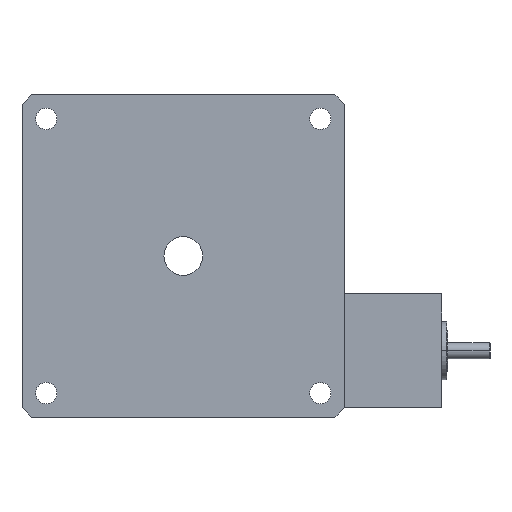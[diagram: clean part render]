
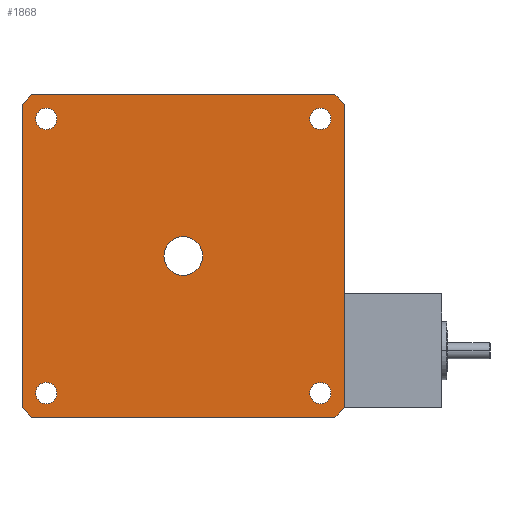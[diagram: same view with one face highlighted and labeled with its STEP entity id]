
A CAD part, front view. The second image highlights one B-rep face of the part: STEP entity #1868.
In plain terms, the highlighted planar face has unit normal (0, -1, 0).
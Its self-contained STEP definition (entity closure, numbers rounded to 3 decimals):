
#1=DIRECTION('',(0.707,0.,-0.707));
#2=VECTOR('',#1,4.243);
#3=CARTESIAN_POINT('',(-50.,-22.733,-47.));
#4=LINE('',#3,#2);
#5=DIRECTION('',(0.,0.,1.));
#6=VECTOR('',#5,94.);
#7=CARTESIAN_POINT('',(-50.,-22.733,-47.));
#8=LINE('',#7,#6);
#9=DIRECTION('',(-0.707,0.,-0.707));
#10=VECTOR('',#9,4.243);
#11=CARTESIAN_POINT('',(-47.,-22.733,50.));
#12=LINE('',#11,#10);
#13=DIRECTION('',(1.,0.,0.));
#14=VECTOR('',#13,94.);
#15=CARTESIAN_POINT('',(-47.,-22.733,50.));
#16=LINE('',#15,#14);
#17=DIRECTION('',(-0.707,0.,0.707));
#18=VECTOR('',#17,4.243);
#19=CARTESIAN_POINT('',(50.,-22.733,47.));
#20=LINE('',#19,#18);
#21=DIRECTION('',(0.,0.,-1.));
#22=VECTOR('',#21,94.);
#23=CARTESIAN_POINT('',(50.,-22.733,47.));
#24=LINE('',#23,#22);
#25=DIRECTION('',(0.707,0.,0.707));
#26=VECTOR('',#25,4.243);
#27=CARTESIAN_POINT('',(47.,-22.733,-50.));
#28=LINE('',#27,#26);
#29=DIRECTION('',(-1.,0.,0.));
#30=VECTOR('',#29,94.);
#31=CARTESIAN_POINT('',(47.,-22.733,-50.));
#32=LINE('',#31,#30);
#33=CARTESIAN_POINT('',(42.5,-22.733,42.5));
#34=DIRECTION('',(0.,1.,0.));
#35=DIRECTION('',(1.,0.,0.));
#36=AXIS2_PLACEMENT_3D('',#33,#34,#35);
#38=CARTESIAN_POINT('',(42.5,-22.733,42.5));
#39=DIRECTION('',(0.,1.,0.));
#40=DIRECTION('',(-1.,0.,0.));
#41=AXIS2_PLACEMENT_3D('',#38,#39,#40);
#43=CARTESIAN_POINT('',(-42.5,-22.733,42.5));
#44=DIRECTION('',(0.,-1.,0.));
#45=DIRECTION('',(-1.,0.,0.));
#46=AXIS2_PLACEMENT_3D('',#43,#44,#45);
#48=CARTESIAN_POINT('',(-42.5,-22.733,42.5));
#49=DIRECTION('',(0.,-1.,0.));
#50=DIRECTION('',(1.,0.,0.));
#51=AXIS2_PLACEMENT_3D('',#48,#49,#50);
#53=CARTESIAN_POINT('',(42.5,-22.733,-42.5));
#54=DIRECTION('',(0.,-1.,0.));
#55=DIRECTION('',(1.,0.,0.));
#56=AXIS2_PLACEMENT_3D('',#53,#54,#55);
#58=CARTESIAN_POINT('',(42.5,-22.733,-42.5));
#59=DIRECTION('',(0.,-1.,0.));
#60=DIRECTION('',(-1.,0.,0.));
#61=AXIS2_PLACEMENT_3D('',#58,#59,#60);
#63=CARTESIAN_POINT('',(-42.5,-22.733,-42.5));
#64=DIRECTION('',(0.,1.,0.));
#65=DIRECTION('',(-1.,0.,0.));
#66=AXIS2_PLACEMENT_3D('',#63,#64,#65);
#68=CARTESIAN_POINT('',(-42.5,-22.733,-42.5));
#69=DIRECTION('',(0.,1.,0.));
#70=DIRECTION('',(1.,0.,0.));
#71=AXIS2_PLACEMENT_3D('',#68,#69,#70);
#73=CARTESIAN_POINT('',(0.,-22.733,0.));
#74=DIRECTION('',(0.,-1.,0.));
#75=DIRECTION('',(1.,0.,0.));
#76=AXIS2_PLACEMENT_3D('',#73,#74,#75);
#78=CARTESIAN_POINT('',(0.,-22.733,0.));
#79=DIRECTION('',(0.,-1.,0.));
#80=DIRECTION('',(-1.,0.,0.));
#81=AXIS2_PLACEMENT_3D('',#78,#79,#80);
#1411=CARTESIAN_POINT('',(-50.,-22.733,-47.));
#1412=CARTESIAN_POINT('',(-47.,-22.733,-50.));
#1413=VERTEX_POINT('',#1411);
#1414=VERTEX_POINT('',#1412);
#1419=CARTESIAN_POINT('',(-47.,-22.733,50.));
#1420=CARTESIAN_POINT('',(-50.,-22.733,47.));
#1421=VERTEX_POINT('',#1419);
#1422=VERTEX_POINT('',#1420);
#1423=CARTESIAN_POINT('',(50.,-22.733,47.));
#1424=CARTESIAN_POINT('',(47.,-22.733,50.));
#1425=VERTEX_POINT('',#1423);
#1426=VERTEX_POINT('',#1424);
#1427=CARTESIAN_POINT('',(47.,-22.733,-50.));
#1428=VERTEX_POINT('',#1427);
#1429=CARTESIAN_POINT('',(50.,-22.733,-47.));
#1430=VERTEX_POINT('',#1429);
#1433=CARTESIAN_POINT('',(45.8,-22.733,42.5));
#1434=CARTESIAN_POINT('',(39.2,-22.733,42.5));
#1435=VERTEX_POINT('',#1433);
#1436=VERTEX_POINT('',#1434);
#1437=CARTESIAN_POINT('',(-45.8,-22.733,42.5));
#1438=CARTESIAN_POINT('',(-39.2,-22.733,42.5));
#1439=VERTEX_POINT('',#1437);
#1440=VERTEX_POINT('',#1438);
#1449=CARTESIAN_POINT('',(45.8,-22.733,-42.5));
#1450=CARTESIAN_POINT('',(39.2,-22.733,-42.5));
#1451=VERTEX_POINT('',#1449);
#1452=VERTEX_POINT('',#1450);
#1465=CARTESIAN_POINT('',(-45.8,-22.733,-42.5));
#1466=CARTESIAN_POINT('',(-39.2,-22.733,-42.5));
#1467=VERTEX_POINT('',#1465);
#1468=VERTEX_POINT('',#1466);
#1641=CARTESIAN_POINT('',(6.,-22.733,0.));
#1642=VERTEX_POINT('',#1641);
#1643=CARTESIAN_POINT('',(-6.,-22.733,0.));
#1644=VERTEX_POINT('',#1643);
#1815=CARTESIAN_POINT('',(0.,-22.733,0.));
#1816=DIRECTION('',(0.,1.,0.));
#1817=DIRECTION('',(1.,0.,0.));
#1818=AXIS2_PLACEMENT_3D('',#1815,#1816,#1817);
#1819=PLANE('',#1818);
#1821=ORIENTED_EDGE('',*,*,#1820,.F.);
#1823=ORIENTED_EDGE('',*,*,#1822,.T.);
#1825=ORIENTED_EDGE('',*,*,#1824,.F.);
#1827=ORIENTED_EDGE('',*,*,#1826,.T.);
#1829=ORIENTED_EDGE('',*,*,#1828,.F.);
#1831=ORIENTED_EDGE('',*,*,#1830,.T.);
#1833=ORIENTED_EDGE('',*,*,#1832,.F.);
#1835=ORIENTED_EDGE('',*,*,#1834,.T.);
#1836=EDGE_LOOP('',(#1821,#1823,#1825,#1827,#1829,#1831,#1833,#1835));
#1837=FACE_OUTER_BOUND('',#1836,.F.);
#1839=ORIENTED_EDGE('',*,*,#1838,.F.);
#1841=ORIENTED_EDGE('',*,*,#1840,.F.);
#1842=EDGE_LOOP('',(#1839,#1841));
#1843=FACE_BOUND('',#1842,.F.);
#1845=ORIENTED_EDGE('',*,*,#1844,.T.);
#1847=ORIENTED_EDGE('',*,*,#1846,.T.);
#1848=EDGE_LOOP('',(#1845,#1847));
#1849=FACE_BOUND('',#1848,.F.);
#1851=ORIENTED_EDGE('',*,*,#1850,.T.);
#1853=ORIENTED_EDGE('',*,*,#1852,.T.);
#1854=EDGE_LOOP('',(#1851,#1853));
#1855=FACE_BOUND('',#1854,.F.);
#1857=ORIENTED_EDGE('',*,*,#1856,.F.);
#1859=ORIENTED_EDGE('',*,*,#1858,.F.);
#1860=EDGE_LOOP('',(#1857,#1859));
#1861=FACE_BOUND('',#1860,.F.);
#1863=ORIENTED_EDGE('',*,*,#1862,.T.);
#1865=ORIENTED_EDGE('',*,*,#1864,.T.);
#1866=EDGE_LOOP('',(#1863,#1865));
#1867=FACE_BOUND('',#1866,.F.);
#1868=ADVANCED_FACE('',(#1837,#1843,#1849,#1855,#1861,#1867),#1819,.F.);
#37=CIRCLE('',#36,3.3);
#42=CIRCLE('',#41,3.3);
#47=CIRCLE('',#46,3.3);
#52=CIRCLE('',#51,3.3);
#57=CIRCLE('',#56,3.3);
#62=CIRCLE('',#61,3.3);
#67=CIRCLE('',#66,3.3);
#72=CIRCLE('',#71,3.3);
#77=CIRCLE('',#76,6.);
#82=CIRCLE('',#81,6.);
#1820=EDGE_CURVE('',#1413,#1414,#4,.T.);
#1822=EDGE_CURVE('',#1413,#1422,#8,.T.);
#1824=EDGE_CURVE('',#1421,#1422,#12,.T.);
#1826=EDGE_CURVE('',#1421,#1426,#16,.T.);
#1828=EDGE_CURVE('',#1425,#1426,#20,.T.);
#1830=EDGE_CURVE('',#1425,#1430,#24,.T.);
#1832=EDGE_CURVE('',#1428,#1430,#28,.T.);
#1834=EDGE_CURVE('',#1428,#1414,#32,.T.);
#1838=EDGE_CURVE('',#1435,#1436,#37,.T.);
#1840=EDGE_CURVE('',#1436,#1435,#42,.T.);
#1844=EDGE_CURVE('',#1439,#1440,#47,.T.);
#1846=EDGE_CURVE('',#1440,#1439,#52,.T.);
#1850=EDGE_CURVE('',#1451,#1452,#57,.T.);
#1852=EDGE_CURVE('',#1452,#1451,#62,.T.);
#1856=EDGE_CURVE('',#1467,#1468,#67,.T.);
#1858=EDGE_CURVE('',#1468,#1467,#72,.T.);
#1862=EDGE_CURVE('',#1642,#1644,#77,.T.);
#1864=EDGE_CURVE('',#1644,#1642,#82,.T.);
